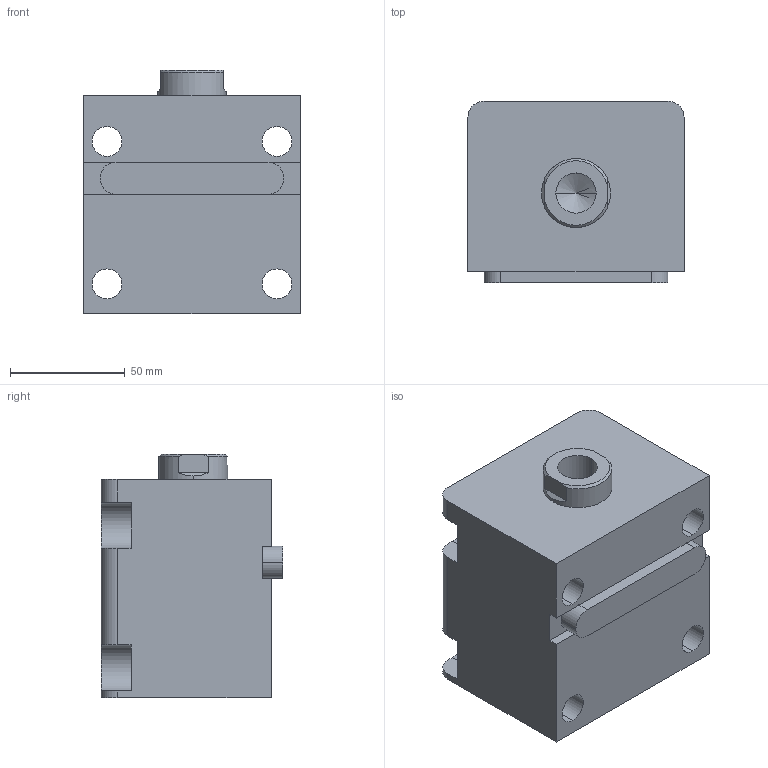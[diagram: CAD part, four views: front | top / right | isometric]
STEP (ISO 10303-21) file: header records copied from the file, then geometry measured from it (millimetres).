
FILE_DESCRIPTION (( 'STEP AP203' ), '1' );
FILE_NAME ('HTB-LA50-35N.STEP', '2019-10-09T07:08:42', ( '微软用户' ), ( '微软中国' ), 'SwSTEP 2.0', 'SolidWorks 2012', '' );
FILE_SCHEMA (( 'CONFIG_CONTROL_DESIGN' ));
Length unit declared in the file: millimetre
Products named in the file (4): HTB-LA50-35掛极; HTB-LA50-35N活塞杆; HTB-LA50-瑩; HTB-LA50-35N
Assembly tree (3 placements, depth 2):
  HTB-LA50-35N
    HTB-LA50-35掛极
    HTB-LA50-35N活塞杆
    HTB-LA50-瑩
Bounding box: 94 x 79 x 106 mm (x, y, z)
Volume: 567631.5 mm3; surface area: 90644.6 mm2
Topology: 3 solids, 3 shells, 86 faces, 213 edges, 139 vertices
Faces by surface type: plane 39, cylinder 35, cone 8, torus 4
Entity records: 3001 total; most frequent: DIRECTION 475, CARTESIAN_POINT 470, ORIENTED_EDGE 422, EDGE_CURVE 211, AXIS2_PLACEMENT_3D 180, VERTEX_POINT 139, LINE 115, VECTOR 115
